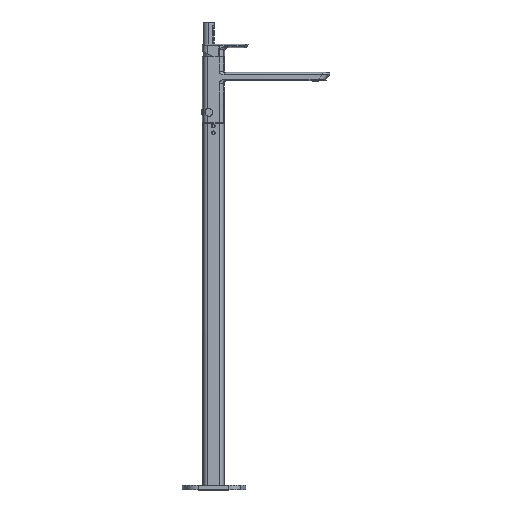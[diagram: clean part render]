
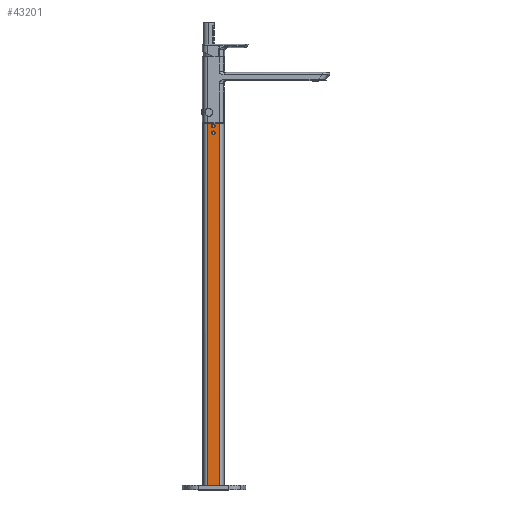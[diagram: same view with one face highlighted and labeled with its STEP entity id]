
A CAD part, top view. The second image highlights one B-rep face of the part: STEP entity #43201.
In plain terms, the highlighted planar face has unit normal (0, 0, 1).
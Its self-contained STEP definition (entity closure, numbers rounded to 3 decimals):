
#1684 = VECTOR ( 'NONE', #94127, 1000. ) ;
#2492 = B_SPLINE_CURVE_WITH_KNOTS ( 'NONE', 3,
 ( #53922, #22106, #61162, #92562 ),
 .UNSPECIFIED., .F., .F.,
 ( 4, 4 ),
 ( 0., 1. ),
 .UNSPECIFIED. ) ;
#2777 = DIRECTION ( 'NONE',  ( 0., 0., -1. ) ) ;
#3161 = CARTESIAN_POINT ( 'NONE',  ( 0., 2.7, 23.5 ) ) ;
#3794 = ORIENTED_EDGE ( 'NONE', *, *, #53543, .F. ) ;
#4195 = CARTESIAN_POINT ( 'NONE',  ( -13.136, 23.485, 23.512 ) ) ;
#6304 = ORIENTED_EDGE ( 'NONE', *, *, #78303, .F. ) ;
#9116 = DIRECTION ( 'NONE',  ( 0., 1., 0. ) ) ;
#12622 = LINE ( 'NONE', #36783, #29194 ) ;
#12897 = CIRCLE ( 'NONE', #78523, 3.989 ) ;
#14513 = VERTEX_POINT ( 'NONE', #91011 ) ;
#15638 = CARTESIAN_POINT ( 'NONE',  ( 13.136, -771.5, 23.497 ) ) ;
#21244 = ORIENTED_EDGE ( 'NONE', *, *, #64331, .F. ) ;
#22106 = CARTESIAN_POINT ( 'NONE',  ( -13.136, -506.509, 23.506 ) ) ;
#22882 = DIRECTION ( 'NONE',  ( 0., 0., 1. ) ) ;
#25252 = CIRCLE ( 'NONE', #36755, 3.989 ) ;
#25442 = DIRECTION ( 'NONE',  ( 0., 1., 0. ) ) ;
#26371 = AXIS2_PLACEMENT_3D ( 'NONE', #39958, #65049, #9116 ) ;
#26960 = CARTESIAN_POINT ( 'NONE',  ( 0., 17.7, 23.5 ) ) ;
#27280 = EDGE_CURVE ( 'NONE', #44098, #54644, #68984, .T. ) ;
#27414 = EDGE_LOOP ( 'NONE', ( #92547, #80774 ) ) ;
#28080 = DIRECTION ( 'NONE',  ( 1., 0., 0. ) ) ;
#28112 = FACE_OUTER_BOUND ( 'NONE', #48332, .T. ) ;
#29194 = VECTOR ( 'NONE', #28080, 1000. ) ;
#32790 = CARTESIAN_POINT ( 'NONE',  ( -13.136, -771.5, 23.5 ) ) ;
#32898 = ORIENTED_EDGE ( 'NONE', *, *, #95219, .T. ) ;
#32940 = CARTESIAN_POINT ( 'NONE',  ( -23.5, -771.5, 23.5 ) ) ;
#34020 = DIRECTION ( 'NONE',  ( 0., 0., 1. ) ) ;
#35534 = DIRECTION ( 'NONE',  ( 0., 1., 0. ) ) ;
#36262 = VERTEX_POINT ( 'NONE', #38561 ) ;
#36755 = AXIS2_PLACEMENT_3D ( 'NONE', #3161, #34020, #35534 ) ;
#36783 = CARTESIAN_POINT ( 'NONE',  ( -23.5, 23.5, 23.5 ) ) ;
#38561 = CARTESIAN_POINT ( 'NONE',  ( 13.136, -771.5, 23.497 ) ) ;
#39958 = CARTESIAN_POINT ( 'NONE',  ( 0., 2.7, 23.5 ) ) ;
#40025 = CARTESIAN_POINT ( 'NONE',  ( -3.989, 17.7, 23.5 ) ) ;
#40309 = CARTESIAN_POINT ( 'NONE',  ( 13.136, -506.509, 23.5 ) ) ;
#43178 = CARTESIAN_POINT ( 'NONE',  ( 0., 17.7, 23.5 ) ) ;
#43201 = ADVANCED_FACE ( 'NONE', ( #44506, #67076, #28112 ), #90778, .T. ) ;
#43203 = CARTESIAN_POINT ( 'NONE',  ( 0., 6.689, 23.5 ) ) ;
#43685 = ORIENTED_EDGE ( 'NONE', *, *, #66386, .F. ) ;
#44098 = VERTEX_POINT ( 'NONE', #73441 ) ;
#44506 = FACE_BOUND ( 'NONE', #53195, .T. ) ;
#48332 = EDGE_LOOP ( 'NONE', ( #3794, #21244, #43685, #32898 ) ) ;
#48537 = VERTEX_POINT ( 'NONE', #4195 ) ;
#51410 = B_SPLINE_CURVE_WITH_KNOTS ( 'NONE', 3,
 ( #15638, #40309, #71630, #101559 ),
 .UNSPECIFIED., .F., .F.,
 ( 4, 4 ),
 ( 0., 1. ),
 .UNSPECIFIED. ) ;
#51727 = ORIENTED_EDGE ( 'NONE', *, *, #27280, .F. ) ;
#52909 = DIRECTION ( 'NONE',  ( 0., 0., -1. ) ) ;
#53195 = EDGE_LOOP ( 'NONE', ( #6304, #51727 ) ) ;
#53543 = EDGE_CURVE ( 'NONE', #48537, #14513, #12622, .T. ) ;
#53922 = CARTESIAN_POINT ( 'NONE',  ( -13.136, -771.5, 23.5 ) ) ;
#54644 = VERTEX_POINT ( 'NONE', #43203 ) ;
#54719 = CARTESIAN_POINT ( 'NONE',  ( -13.136, 23.5, 23.5 ) ) ;
#59303 = CIRCLE ( 'NONE', #77395, 3.989 ) ;
#59427 = VERTEX_POINT ( 'NONE', #40025 ) ;
#60102 = DIRECTION ( 'NONE',  ( 0., 1., 0. ) ) ;
#61162 = CARTESIAN_POINT ( 'NONE',  ( -13.136, -241.517, 23.512 ) ) ;
#64331 = EDGE_CURVE ( 'NONE', #67074, #48537, #2492, .T. ) ;
#64785 = AXIS2_PLACEMENT_3D ( 'NONE', #54719, #22882, #92320 ) ;
#65049 = DIRECTION ( 'NONE',  ( 0., 0., 1. ) ) ;
#66386 = EDGE_CURVE ( 'NONE', #36262, #67074, #85871, .T. ) ;
#67074 = VERTEX_POINT ( 'NONE', #32790 ) ;
#67076 = FACE_BOUND ( 'NONE', #27414, .T. ) ;
#68984 = CIRCLE ( 'NONE', #26371, 3.989 ) ;
#71630 = CARTESIAN_POINT ( 'NONE',  ( 13.136, -241.517, 23.5 ) ) ;
#71736 = CARTESIAN_POINT ( 'NONE',  ( 3.989, 17.7, 23.5 ) ) ;
#73441 = CARTESIAN_POINT ( 'NONE',  ( 0., -1.289, 23.5 ) ) ;
#75615 = EDGE_CURVE ( 'NONE', #59427, #83028, #59303, .T. ) ;
#77395 = AXIS2_PLACEMENT_3D ( 'NONE', #43178, #52909, #60102 ) ;
#78303 = EDGE_CURVE ( 'NONE', #54644, #44098, #25252, .T. ) ;
#78523 = AXIS2_PLACEMENT_3D ( 'NONE', #26960, #2777, #25442 ) ;
#80774 = ORIENTED_EDGE ( 'NONE', *, *, #75615, .T. ) ;
#83028 = VERTEX_POINT ( 'NONE', #71736 ) ;
#85871 = LINE ( 'NONE', #32940, #1684 ) ;
#90778 = PLANE ( 'NONE',  #64785 ) ;
#91011 = CARTESIAN_POINT ( 'NONE',  ( 13.136, 23.486, 23.512 ) ) ;
#92320 = DIRECTION ( 'NONE',  ( 0., 1., 0. ) ) ;
#92547 = ORIENTED_EDGE ( 'NONE', *, *, #93439, .T. ) ;
#92562 = CARTESIAN_POINT ( 'NONE',  ( -13.136, 23.485, 23.512 ) ) ;
#93439 = EDGE_CURVE ( 'NONE', #83028, #59427, #12897, .T. ) ;
#94127 = DIRECTION ( 'NONE',  ( -1., 0., 0. ) ) ;
#95219 = EDGE_CURVE ( 'NONE', #36262, #14513, #51410, .T. ) ;
#101559 = CARTESIAN_POINT ( 'NONE',  ( 13.136, 23.486, 23.512 ) ) ;
